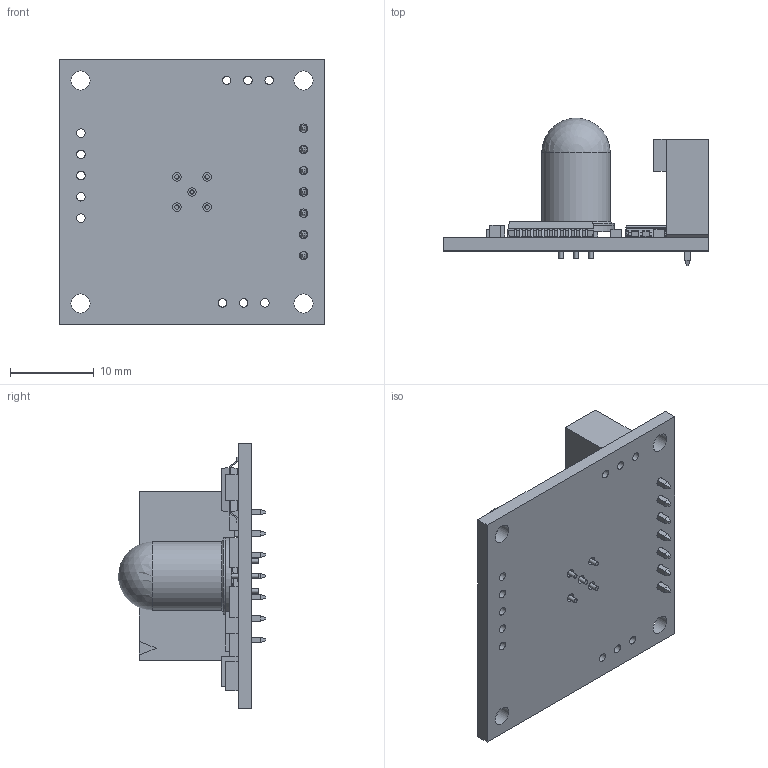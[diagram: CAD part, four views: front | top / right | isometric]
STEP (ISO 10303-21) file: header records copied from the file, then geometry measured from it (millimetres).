
FILE_DESCRIPTION (( 'STEP AP214' ), '1' );
FILE_NAME ('0729-1768-99.STEP', '2023-06-28T19:07:26', ( '' ), ( '' ), 'SwSTEP 2.0', 'SolidWorks 2022', '' );
FILE_SCHEMA (( 'AUTOMOTIVE_DESIGN' ));
Length unit declared in the file: inch
Products named in the file (6): SN65HVD1781DR; PIC18F26K22-I_SS; 0729-1768-99; 70543-0006; 6200-008_without image; 0717-4318-99
Assembly tree (5 placements, depth 2):
  0729-1768-99
    6200-008_without image
    0717-4318-99
    70543-0006
    PIC18F26K22-I_SS
    SN65HVD1781DR
Bounding box: 31.75 x 17.62 x 31.75 mm (x, y, z)
Volume: 2601.8 mm3; surface area: 5066.8 mm2
Topology: 50 solids, 50 shells, 883 faces, 2164 edges, 1408 vertices
Faces by surface type: plane 668, cylinder 199, bspline 8, sphere 4, torus 2, cone 2
Full cylindrical faces by diameter (mm): 0.508 x9, 0.662 x1, 1.012 x7, 1.016 x16, 1.778 x8, 2.286 x4, 7.62 x1, 7.666 x1, 8.192 x1, 9.144 x1
Entity records: 37281 total; most frequent: CARTESIAN_POINT 5848, ORIENTED_EDGE 4192, DIRECTION 4161, EDGE_CURVE 2096, VECTOR 1653, LINE 1653, VERTEX_POINT 1397, AXIS2_PLACEMENT_3D 1254
